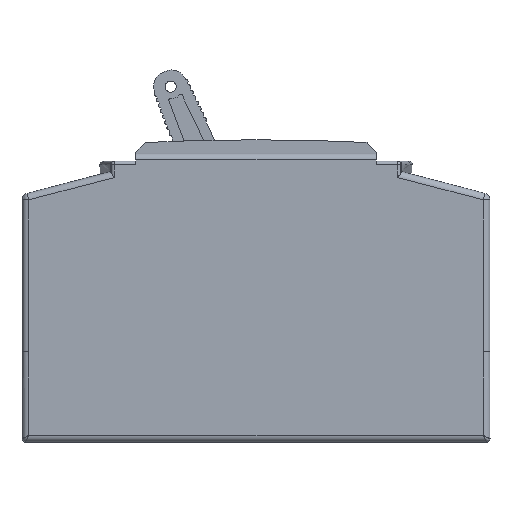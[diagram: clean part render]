
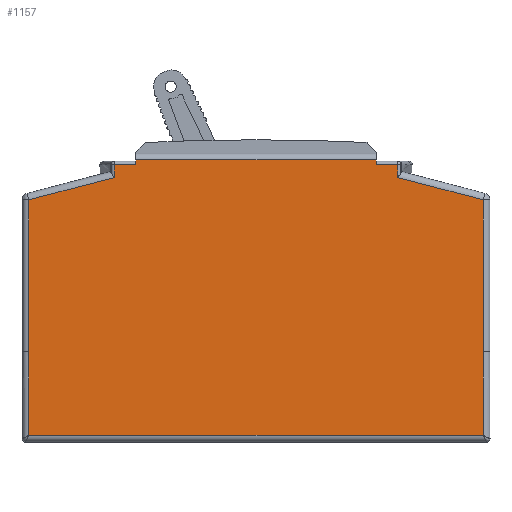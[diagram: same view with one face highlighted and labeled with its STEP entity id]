
A CAD part, left-side view. The second image highlights one B-rep face of the part: STEP entity #1157.
In plain terms, the highlighted planar face has unit normal (-1, 0, 0).
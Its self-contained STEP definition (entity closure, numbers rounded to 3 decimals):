
#92 = CARTESIAN_POINT ( 'NONE',  ( -16., 18., 0. ) ) ;
#180 = ORIENTED_EDGE ( 'NONE', *, *, #6130, .T. ) ;
#229 = VECTOR ( 'NONE', #1228, 1000. ) ;
#237 = CARTESIAN_POINT ( 'NONE',  ( -16., -18., 0. ) ) ;
#428 = CARTESIAN_POINT ( 'NONE',  ( -16., 34., 36.227 ) ) ;
#576 = CARTESIAN_POINT ( 'NONE',  ( -16., -21.167, 41.5 ) ) ;
#613 = VERTEX_POINT ( 'NONE', #4173 ) ;
#620 = AXIS2_PLACEMENT_3D ( 'NONE', #4637, #6867, #5761 ) ;
#633 = EDGE_CURVE ( 'NONE', #2447, #961, #5790, .T. ) ;
#696 = ORIENTED_EDGE ( 'NONE', *, *, #2296, .T. ) ;
#961 = VERTEX_POINT ( 'NONE', #1656 ) ;
#1157 = ADVANCED_FACE ( 'NONE', ( #2771 ), #3496, .F. ) ;
#1228 = DIRECTION ( 'NONE',  ( 0., 0., -1. ) ) ;
#1235 = LINE ( 'NONE', #92, #4642 ) ;
#1395 = CARTESIAN_POINT ( 'NONE',  ( -16., -21.167, 39.57 ) ) ;
#1435 = VECTOR ( 'NONE', #5165, 1000. ) ;
#1477 = DIRECTION ( 'NONE',  ( 0., 0., 1. ) ) ;
#1599 = DIRECTION ( 'NONE',  ( 0., 0.968, -0.252 ) ) ;
#1603 = VECTOR ( 'NONE', #5744, 1000. ) ;
#1609 = DIRECTION ( 'NONE',  ( 0., 0., 1. ) ) ;
#1656 = CARTESIAN_POINT ( 'NONE',  ( -16., 21.167, 41.5 ) ) ;
#1738 = EDGE_CURVE ( 'NONE', #6081, #4583, #4513, .T. ) ;
#1767 = LINE ( 'NONE', #2689, #5414 ) ;
#1786 = VECTOR ( 'NONE', #1477, 1000. ) ;
#1803 = CARTESIAN_POINT ( 'NONE',  ( -16., -18., 41.5 ) ) ;
#1826 = EDGE_CURVE ( 'NONE', #2711, #3038, #4010, .T. ) ;
#1855 = VERTEX_POINT ( 'NONE', #2695 ) ;
#1927 = DIRECTION ( 'NONE',  ( 0., 0., 1. ) ) ;
#1968 = EDGE_CURVE ( 'NONE', #613, #3295, #3760, .T. ) ;
#1993 = ORIENTED_EDGE ( 'NONE', *, *, #2980, .T. ) ;
#2149 = EDGE_CURVE ( 'NONE', #1855, #5817, #3996, .T. ) ;
#2156 = DIRECTION ( 'NONE',  ( 0., 0., 1. ) ) ;
#2188 = EDGE_CURVE ( 'NONE', #4583, #3823, #7068, .T. ) ;
#2200 = EDGE_CURVE ( 'NONE', #3823, #1855, #3831, .T. ) ;
#2247 = ORIENTED_EDGE ( 'NONE', *, *, #2149, .T. ) ;
#2296 = EDGE_CURVE ( 'NONE', #6219, #5042, #4669, .T. ) ;
#2346 = CARTESIAN_POINT ( 'NONE',  ( -16., 34., 1. ) ) ;
#2447 = VERTEX_POINT ( 'NONE', #4309 ) ;
#2496 = VECTOR ( 'NONE', #4155, 1000. ) ;
#2561 = CARTESIAN_POINT ( 'NONE',  ( -16., 18., 42.2 ) ) ;
#2581 = ORIENTED_EDGE ( 'NONE', *, *, #4246, .T. ) ;
#2590 = VERTEX_POINT ( 'NONE', #5171 ) ;
#2595 = LINE ( 'NONE', #2627, #3189 ) ;
#2627 = CARTESIAN_POINT ( 'NONE',  ( -16., -34.5, 1. ) ) ;
#2669 = CARTESIAN_POINT ( 'NONE',  ( -16., 21.167, 39.57 ) ) ;
#2689 = CARTESIAN_POINT ( 'NONE',  ( -16., 21.167, 3.358 ) ) ;
#2695 = CARTESIAN_POINT ( 'NONE',  ( -16., -18., 42.2 ) ) ;
#2711 = VERTEX_POINT ( 'NONE', #2669 ) ;
#2771 = FACE_OUTER_BOUND ( 'NONE', #4958, .T. ) ;
#2796 = DIRECTION ( 'NONE',  ( 0., 0., -1. ) ) ;
#2885 = LINE ( 'NONE', #6043, #229 ) ;
#2980 = EDGE_CURVE ( 'NONE', #5042, #6081, #5524, .T. ) ;
#3038 = VERTEX_POINT ( 'NONE', #5187 ) ;
#3189 = VECTOR ( 'NONE', #5344, 1000. ) ;
#3295 = VERTEX_POINT ( 'NONE', #2346 ) ;
#3381 = LINE ( 'NONE', #4418, #6105 ) ;
#3496 = PLANE ( 'NONE',  #620 ) ;
#3637 = ORIENTED_EDGE ( 'NONE', *, *, #633, .T. ) ;
#3760 = LINE ( 'NONE', #3828, #3850 ) ;
#3804 = CARTESIAN_POINT ( 'NONE',  ( -16., -34., 13.5 ) ) ;
#3823 = VERTEX_POINT ( 'NONE', #1803 ) ;
#3828 = CARTESIAN_POINT ( 'NONE',  ( -16., 34., 0.5 ) ) ;
#3831 = LINE ( 'NONE', #237, #6902 ) ;
#3850 = VECTOR ( 'NONE', #2796, 1000. ) ;
#3962 = CARTESIAN_POINT ( 'NONE',  ( -16., -34., 36.227 ) ) ;
#3996 = LINE ( 'NONE', #6818, #1435 ) ;
#4010 = LINE ( 'NONE', #428, #6736 ) ;
#4117 = ORIENTED_EDGE ( 'NONE', *, *, #5164, .T. ) ;
#4155 = DIRECTION ( 'NONE',  ( 0., 1., 0. ) ) ;
#4173 = CARTESIAN_POINT ( 'NONE',  ( -16., 34., 13.5 ) ) ;
#4216 = ORIENTED_EDGE ( 'NONE', *, *, #1738, .T. ) ;
#4246 = EDGE_CURVE ( 'NONE', #3038, #613, #2885, .T. ) ;
#4309 = CARTESIAN_POINT ( 'NONE',  ( -16., 18., 41.5 ) ) ;
#4418 = CARTESIAN_POINT ( 'NONE',  ( -16., -34., 13.5 ) ) ;
#4513 = LINE ( 'NONE', #4739, #4685 ) ;
#4537 = DIRECTION ( 'NONE',  ( 0., 0., -1. ) ) ;
#4583 = VERTEX_POINT ( 'NONE', #576 ) ;
#4637 = CARTESIAN_POINT ( 'NONE',  ( -16., 0., 0. ) ) ;
#4642 = VECTOR ( 'NONE', #4537, 1000. ) ;
#4669 = LINE ( 'NONE', #4733, #1786 ) ;
#4685 = VECTOR ( 'NONE', #1927, 1000. ) ;
#4688 = EDGE_CURVE ( 'NONE', #2590, #6219, #3381, .T. ) ;
#4733 = CARTESIAN_POINT ( 'NONE',  ( -16., -34., 36.227 ) ) ;
#4739 = CARTESIAN_POINT ( 'NONE',  ( -16., -21.167, 3.358 ) ) ;
#4958 = EDGE_LOOP ( 'NONE', ( #6891, #2247, #4117, #3637, #5651, #6967, #2581, #6095, #180, #5033, #696, #1993, #4216, #4973 ) ) ;
#4973 = ORIENTED_EDGE ( 'NONE', *, *, #2188, .T. ) ;
#5006 = EDGE_CURVE ( 'NONE', #2711, #961, #1767, .T. ) ;
#5033 = ORIENTED_EDGE ( 'NONE', *, *, #4688, .T. ) ;
#5042 = VERTEX_POINT ( 'NONE', #3962 ) ;
#5083 = DIRECTION ( 'NONE',  ( 0., 0., 1. ) ) ;
#5164 = EDGE_CURVE ( 'NONE', #5817, #2447, #1235, .T. ) ;
#5165 = DIRECTION ( 'NONE',  ( 0., 1., 0. ) ) ;
#5171 = CARTESIAN_POINT ( 'NONE',  ( -16., -34., 1. ) ) ;
#5187 = CARTESIAN_POINT ( 'NONE',  ( -16., 34., 36.227 ) ) ;
#5193 = CARTESIAN_POINT ( 'NONE',  ( -16., 21.167, 41.5 ) ) ;
#5342 = VECTOR ( 'NONE', #6297, 1000. ) ;
#5344 = DIRECTION ( 'NONE',  ( 0., -1., 0. ) ) ;
#5414 = VECTOR ( 'NONE', #2156, 1000. ) ;
#5524 = LINE ( 'NONE', #6842, #5342 ) ;
#5651 = ORIENTED_EDGE ( 'NONE', *, *, #5006, .F. ) ;
#5744 = DIRECTION ( 'NONE',  ( 0., 1., 0. ) ) ;
#5761 = DIRECTION ( 'NONE',  ( 0., 0., -1. ) ) ;
#5790 = LINE ( 'NONE', #5193, #2496 ) ;
#5817 = VERTEX_POINT ( 'NONE', #2561 ) ;
#6043 = CARTESIAN_POINT ( 'NONE',  ( -16., 34., 13.5 ) ) ;
#6081 = VERTEX_POINT ( 'NONE', #1395 ) ;
#6095 = ORIENTED_EDGE ( 'NONE', *, *, #1968, .T. ) ;
#6105 = VECTOR ( 'NONE', #1609, 1000. ) ;
#6130 = EDGE_CURVE ( 'NONE', #3295, #2590, #2595, .T. ) ;
#6219 = VERTEX_POINT ( 'NONE', #3804 ) ;
#6297 = DIRECTION ( 'NONE',  ( 0., 0.968, 0.252 ) ) ;
#6736 = VECTOR ( 'NONE', #1599, 1000. ) ;
#6793 = CARTESIAN_POINT ( 'NONE',  ( -16., -18., 41.5 ) ) ;
#6818 = CARTESIAN_POINT ( 'NONE',  ( -16., 18., 42.2 ) ) ;
#6842 = CARTESIAN_POINT ( 'NONE',  ( -16., -20.915, 39.636 ) ) ;
#6867 = DIRECTION ( 'NONE',  ( 1., 0., 0. ) ) ;
#6891 = ORIENTED_EDGE ( 'NONE', *, *, #2200, .T. ) ;
#6902 = VECTOR ( 'NONE', #5083, 1000. ) ;
#6967 = ORIENTED_EDGE ( 'NONE', *, *, #1826, .T. ) ;
#7068 = LINE ( 'NONE', #6793, #1603 ) ;
